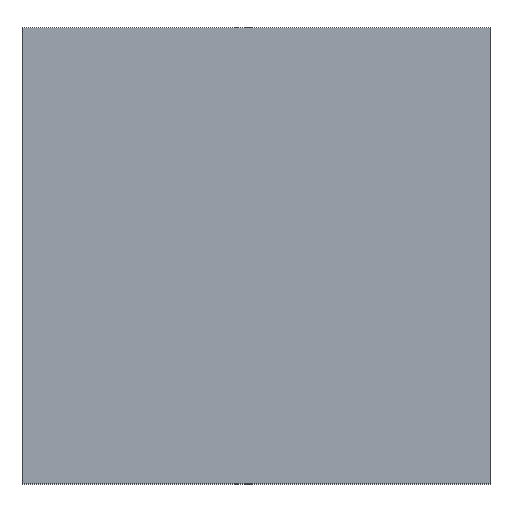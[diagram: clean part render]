
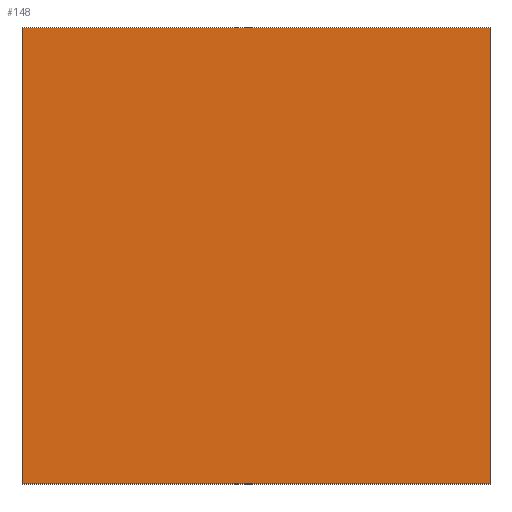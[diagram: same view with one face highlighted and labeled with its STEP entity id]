
A CAD part, top view. The second image highlights one B-rep face of the part: STEP entity #148.
In plain terms, the highlighted planar face has unit normal (0, 0, 1).
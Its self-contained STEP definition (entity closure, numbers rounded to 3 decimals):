
#9=CARTESIAN_POINT('',(-3.95,-4.45,6.));
#10=VERTEX_POINT('',#9);
#11=CARTESIAN_POINT('',(3.95,-4.45,6.));
#12=VERTEX_POINT('',#11);
#13=CARTESIAN_POINT('',(-3.95,3.25,6.));
#14=VERTEX_POINT('',#13);
#15=CARTESIAN_POINT('',(3.95,3.25,6.));
#16=VERTEX_POINT('',#15);
#17=DIRECTION('',(0.,1.,0.));
#18=VECTOR('',#17,7.7);
#19=CARTESIAN_POINT('',(-3.95,-4.45,6.));
#20=LINE('',#19,#18);
#21=EDGE_CURVE('',#10,#14,#20,.T.);
#61=DIRECTION('',(0.,1.,0.));
#62=VECTOR('',#61,7.7);
#63=CARTESIAN_POINT('',(3.95,-4.45,6.));
#64=LINE('',#63,#62);
#65=EDGE_CURVE('',#12,#16,#64,.T.);
#82=DIRECTION('',(1.,0.,0.));
#83=VECTOR('',#82,7.9);
#84=CARTESIAN_POINT('',(-3.95,-4.45,6.));
#85=LINE('',#84,#83);
#86=EDGE_CURVE('',#10,#12,#85,.T.);
#104=DIRECTION('',(1.,0.,0.));
#105=VECTOR('',#104,7.9);
#106=CARTESIAN_POINT('',(-3.95,3.25,6.));
#107=LINE('',#106,#105);
#108=EDGE_CURVE('',#14,#16,#107,.T.);
#137=ORIENTED_EDGE('',*,*,#86,.T.);
#138=ORIENTED_EDGE('',*,*,#65,.T.);
#139=ORIENTED_EDGE('',*,*,#108,.F.);
#140=ORIENTED_EDGE('',*,*,#21,.F.);
#141=EDGE_LOOP('',(#137,#138,#139,#140));
#142=FACE_OUTER_BOUND('',#141,.T.);
#143=CARTESIAN_POINT('',(-3.95,-4.45,6.));
#144=DIRECTION('',(0.,0.,1.));
#145=DIRECTION('',(1.,0.,0.));
#146=AXIS2_PLACEMENT_3D('',#143,#144,#145);
#147=PLANE('',#146);
#148=ADVANCED_FACE('',(#142),#147,.T.);
